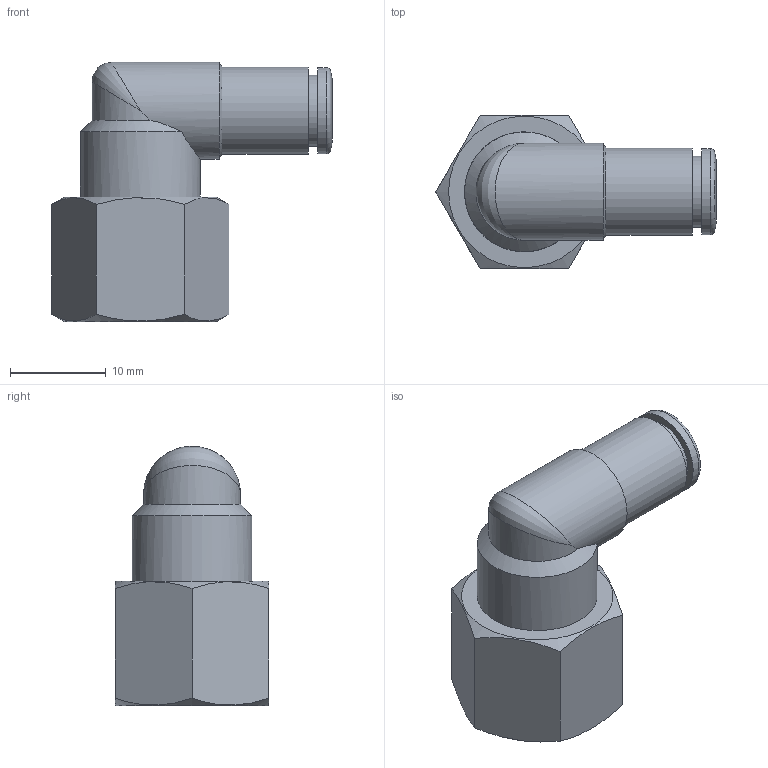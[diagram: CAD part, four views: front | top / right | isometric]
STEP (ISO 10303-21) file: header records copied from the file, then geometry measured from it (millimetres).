
FILE_DESCRIPTION(('Bauteilbeschreibung','HiCAD-Model','HiCAD-STEP-TRANSLATION','Bauteilbeschreibung'),'2;1');
FILE_NAME('B:/ABGLEICH/ZEICHNUNGEN/STEP FÜR INTERNET/STEP/IPSO 022-F/202802_IPSO_022-F_4_1-4.STP','2012-02-09T17:00:58+00:00',('Konstrukteur'),('Konstrukteur Firma GmbH'),' HiCAD neXt 2008, Step 3.1.1401.2J ','HiCAD neXt 2008','confidential');
FILE_SCHEMA(('AUTOMOTIVE_DESIGN { 1 2 10303 214 0 1 1 1 }'));
Length unit declared in the file: millimetre
Products named in the file (6): A02802_IPSO_022_F_4_1_4; DR4_1_NEU; R202201_N2; A14623_N2; A146230N2; G 1_4
Assembly tree (5 placements, depth 3):
  A02802_IPSO_022_F_4_1_4
    DR4_1_NEU
    R202201_N2
    A14623_N2
    A146230N2
      G 1_4
Bounding box: 29.24 x 16 x 27.05 mm (x, y, z)
Volume: 3287.7 mm3; surface area: 4508 mm2
Topology: 4 solids, 4 shells, 62 faces, 134 edges, 82 vertices
Faces by surface type: cylinder 22, plane 19, cone 19, torus 1, bspline 1
Full cylindrical faces by diameter (mm): 3 x1, 4.1 x2, 5.5 x1, 6 x1, 6.4 x1, 7.3 x1, 7.4 x1, 7.6 x1, 9 x3, 9.1 x1, 10.1 x3, 11.445 x2, 12.5 x1, 13.157 x2
Entity records: 3096 total; most frequent: CARTESIAN_POINT 1481, DIRECTION 256, ORIENTED_EDGE 156, AXIS2_PLACEMENT_3D 125, EDGE_LOOP 115, EDGE_CURVE 78, COLOUR_RGB 76, PRESENTATION_STYLE_ASSIGNMENT 76
